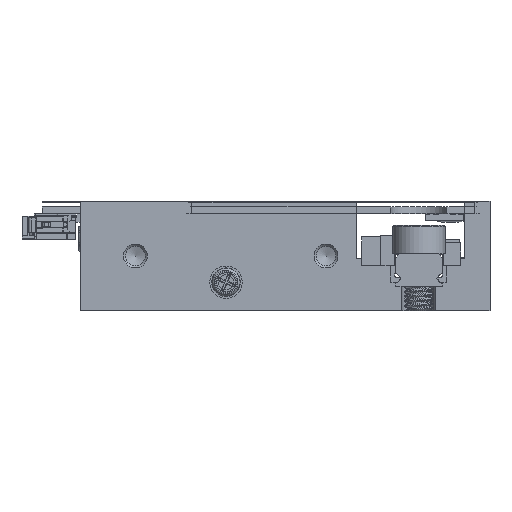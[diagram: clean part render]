
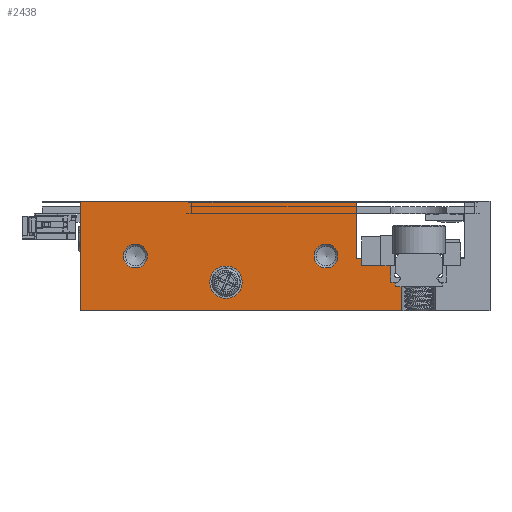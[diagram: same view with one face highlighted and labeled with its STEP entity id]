
A CAD part, left-side view. The second image highlights one B-rep face of the part: STEP entity #2438.
In plain terms, the highlighted planar face has unit normal (-1, 0, 0).
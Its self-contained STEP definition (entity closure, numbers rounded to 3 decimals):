
#1669=FACE_BOUND('',#6302,.T.);
#1670=FACE_BOUND('',#6303,.T.);
#1671=FACE_BOUND('',#6304,.T.);
#1672=FACE_BOUND('',#6305,.T.);
#2438=ADVANCED_FACE('',(#1669,#1670,#1671,#1672),#3962,.F.);
#3962=PLANE('',#30266);
#6302=EDGE_LOOP('',(#9253));
#6303=EDGE_LOOP('',(#9254));
#6304=EDGE_LOOP('',(#9255));
#6305=EDGE_LOOP('',(#9256,#9257,#9258,#9259,#9260,#9261,#9262,#9263));
#8315=CIRCLE('',#30263,1.7);
#8316=CIRCLE('',#30264,1.25);
#8317=CIRCLE('',#30265,1.25);
#9253=ORIENTED_EDGE('',*,*,#20048,.T.);
#9254=ORIENTED_EDGE('',*,*,#20049,.T.);
#9255=ORIENTED_EDGE('',*,*,#20050,.T.);
#9256=ORIENTED_EDGE('',*,*,#20028,.T.);
#9257=ORIENTED_EDGE('',*,*,#20051,.T.);
#9258=ORIENTED_EDGE('',*,*,#20052,.T.);
#9259=ORIENTED_EDGE('',*,*,#20053,.T.);
#9260=ORIENTED_EDGE('',*,*,#20054,.T.);
#9261=ORIENTED_EDGE('',*,*,#20006,.T.);
#9262=ORIENTED_EDGE('',*,*,#19980,.F.);
#9263=ORIENTED_EDGE('',*,*,#19990,.T.);
#17202=VERTEX_POINT('',#40598);
#17203=VERTEX_POINT('',#40600);
#17210=VERTEX_POINT('',#40617);
#17221=VERTEX_POINT('',#40649);
#17240=VERTEX_POINT('',#40693);
#17256=VERTEX_POINT('',#40734);
#17257=VERTEX_POINT('',#40736);
#17258=VERTEX_POINT('',#40738);
#17259=VERTEX_POINT('',#40740);
#17260=VERTEX_POINT('',#40742);
#17261=VERTEX_POINT('',#40744);
#19980=EDGE_CURVE('',#17202,#17203,#23988,.T.);
#19990=EDGE_CURVE('',#17202,#17210,#23996,.T.);
#20006=EDGE_CURVE('',#17221,#17203,#24012,.T.);
#20028=EDGE_CURVE('',#17210,#17240,#24023,.T.);
#20048=EDGE_CURVE('',#17256,#17256,#8315,.T.);
#20049=EDGE_CURVE('',#17257,#17257,#8316,.T.);
#20050=EDGE_CURVE('',#17258,#17258,#8317,.T.);
#20051=EDGE_CURVE('',#17240,#17259,#24042,.T.);
#20052=EDGE_CURVE('',#17259,#17260,#24043,.T.);
#20053=EDGE_CURVE('',#17260,#17261,#24044,.T.);
#20054=EDGE_CURVE('',#17261,#17221,#24045,.T.);
#23988=LINE('',#40599,#27123);
#23996=LINE('',#40618,#27131);
#24012=LINE('',#40648,#27147);
#24023=LINE('',#40694,#27158);
#24042=LINE('',#40739,#27177);
#24043=LINE('',#40741,#27178);
#24044=LINE('',#40743,#27179);
#24045=LINE('',#40745,#27180);
#27123=VECTOR('',#32669,1.);
#27131=VECTOR('',#32683,1.);
#27147=VECTOR('',#32707,1.);
#27158=VECTOR('',#32748,1.);
#27177=VECTOR('',#32783,1.);
#27178=VECTOR('',#32784,1.);
#27179=VECTOR('',#32785,1.);
#27180=VECTOR('',#32786,1.);
#30263=AXIS2_PLACEMENT_3D('',#40733,#32777,#32778);
#30264=AXIS2_PLACEMENT_3D('',#40735,#32779,#32780);
#30265=AXIS2_PLACEMENT_3D('',#40737,#32781,#32782);
#30266=AXIS2_PLACEMENT_3D('',#40746,#32787,#32788);
#32669=DIRECTION('',(0.,-1.,0.));
#32683=DIRECTION('',(0.,0.,-1.));
#32707=DIRECTION('',(0.,0.,1.));
#32748=DIRECTION('',(0.,-1.,0.));
#32777=DIRECTION('',(1.,0.,0.));
#32778=DIRECTION('',(0.,1.,0.));
#32779=DIRECTION('',(1.,0.,0.));
#32780=DIRECTION('',(0.,1.,0.));
#32781=DIRECTION('',(1.,0.,0.));
#32782=DIRECTION('',(0.,1.,0.));
#32783=DIRECTION('',(0.,0.,1.));
#32784=DIRECTION('',(0.,1.,0.));
#32785=DIRECTION('',(0.,0.,1.));
#32786=DIRECTION('',(0.,1.,0.));
#32787=DIRECTION('',(1.,0.,0.));
#32788=DIRECTION('',(0.,1.,0.));
#40598=CARTESIAN_POINT('',(-15.,43.,11.5));
#40599=CARTESIAN_POINT('',(-15.,43.,11.5));
#40600=CARTESIAN_POINT('',(-15.,14.05,11.5));
#40617=CARTESIAN_POINT('',(-15.,43.,0.));
#40618=CARTESIAN_POINT('',(-15.,43.,11.5));
#40648=CARTESIAN_POINT('',(-15.,14.05,5.5));
#40649=CARTESIAN_POINT('',(-15.,14.05,5.5));
#40693=CARTESIAN_POINT('',(-15.,9.25,0.));
#40694=CARTESIAN_POINT('',(-15.,43.,0.));
#40733=CARTESIAN_POINT('',(-15.,27.7,3.));
#40734=CARTESIAN_POINT('',(-15.,29.4,3.));
#40735=CARTESIAN_POINT('',(-15.,37.2,5.75));
#40736=CARTESIAN_POINT('',(-15.,38.45,5.75));
#40737=CARTESIAN_POINT('',(-15.,17.2,5.75));
#40738=CARTESIAN_POINT('',(-15.,18.45,5.75));
#40739=CARTESIAN_POINT('',(-15.,9.25,-0.3));
#40740=CARTESIAN_POINT('',(-15.,9.25,3.));
#40741=CARTESIAN_POINT('',(-15.,4.6,3.));
#40742=CARTESIAN_POINT('',(-15.,10.4,3.));
#40743=CARTESIAN_POINT('',(-15.,10.4,3.));
#40744=CARTESIAN_POINT('',(-15.,10.4,5.5));
#40745=CARTESIAN_POINT('',(-15.,10.4,5.5));
#40746=CARTESIAN_POINT('',(-15.,43.,11.5));
